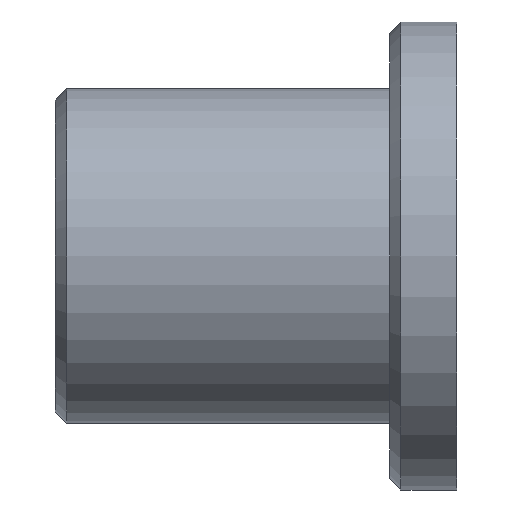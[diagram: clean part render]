
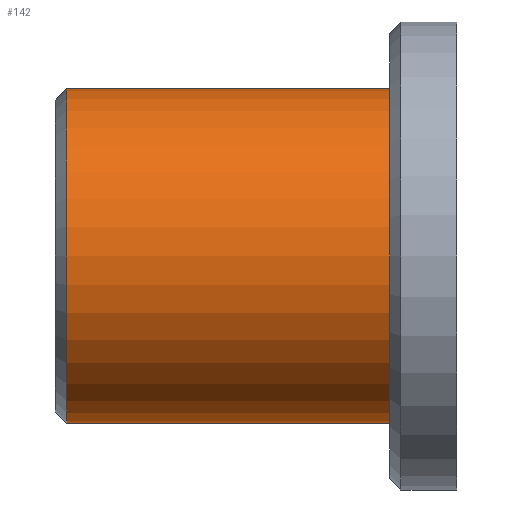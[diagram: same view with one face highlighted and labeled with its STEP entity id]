
A CAD part, front view. The second image highlights one B-rep face of the part: STEP entity #142.
In plain terms, the highlighted cylindrical face has radius 7.5 mm (diameter 15 mm), a full revolution.
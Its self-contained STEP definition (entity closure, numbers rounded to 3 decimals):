
#16=CYLINDRICAL_SURFACE('',#181,7.5);
#28=FACE_OUTER_BOUND('',#38,.T.);
#38=EDGE_LOOP('',(#116,#117,#118,#119,#120));
#48=LINE('',#265,#54);
#54=VECTOR('',#220,7.5);
#62=CIRCLE('',#179,7.5);
#63=CIRCLE('',#180,7.5);
#64=CIRCLE('',#182,7.5);
#74=VERTEX_POINT('',#258);
#75=VERTEX_POINT('',#260);
#76=VERTEX_POINT('',#264);
#89=EDGE_CURVE('',#74,#75,#62,.T.);
#90=EDGE_CURVE('',#75,#74,#63,.T.);
#91=EDGE_CURVE('',#75,#76,#48,.T.);
#92=EDGE_CURVE('',#76,#76,#64,.T.);
#116=ORIENTED_EDGE('',*,*,#89,.F.);
#117=ORIENTED_EDGE('',*,*,#90,.F.);
#118=ORIENTED_EDGE('',*,*,#91,.T.);
#119=ORIENTED_EDGE('',*,*,#92,.T.);
#120=ORIENTED_EDGE('',*,*,#91,.F.);
#142=ADVANCED_FACE('',(#28),#16,.T.);
#179=AXIS2_PLACEMENT_3D('',#261,#214,#215);
#180=AXIS2_PLACEMENT_3D('',#262,#216,#217);
#181=AXIS2_PLACEMENT_3D('',#263,#218,#219);
#182=AXIS2_PLACEMENT_3D('',#266,#221,#222);
#214=DIRECTION('center_axis',(-1.,0.,0.));
#215=DIRECTION('ref_axis',(0.,1.,0.));
#216=DIRECTION('center_axis',(-1.,0.,0.));
#217=DIRECTION('ref_axis',(0.,1.,0.));
#218=DIRECTION('center_axis',(-1.,0.,0.));
#219=DIRECTION('ref_axis',(0.,-1.,0.));
#220=DIRECTION('',(1.,0.,0.));
#221=DIRECTION('center_axis',(-1.,0.,0.));
#222=DIRECTION('ref_axis',(0.,-1.,0.));
#258=CARTESIAN_POINT('',(-17.5,-7.5,0.));
#260=CARTESIAN_POINT('',(-17.5,7.5,0.));
#261=CARTESIAN_POINT('Origin',(-17.5,0.,0.));
#262=CARTESIAN_POINT('Origin',(-17.5,0.,0.));
#263=CARTESIAN_POINT('Origin',(-10.5,0.,0.));
#264=CARTESIAN_POINT('',(-3.,7.5,0.));
#265=CARTESIAN_POINT('',(-10.5,7.5,0.));
#266=CARTESIAN_POINT('Origin',(-3.,0.,0.));
